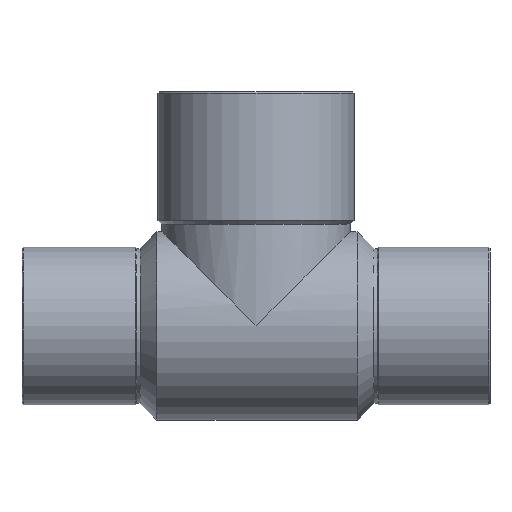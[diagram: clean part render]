
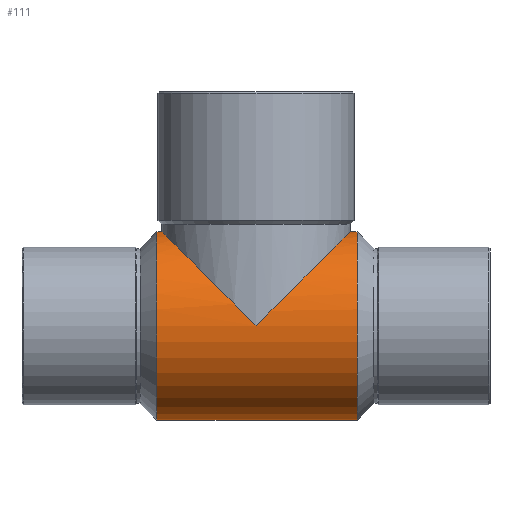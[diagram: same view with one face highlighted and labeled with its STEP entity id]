
A CAD part, top view. The second image highlights one B-rep face of the part: STEP entity #111.
In plain terms, the highlighted cylindrical face has radius 14.5 mm (diameter 29 mm), a partial arc.
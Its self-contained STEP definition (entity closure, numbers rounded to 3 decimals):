
#44=CARTESIAN_POINT('',(0.0,0.,0.0));
#45=DIRECTION('',(1.0,0.,0.0));
#46=DIRECTION('',(0.0,1.0,0.0));
#47=AXIS2_PLACEMENT_3D('',#44,#45,#46);
#48=CYLINDRICAL_SURFACE('',#47,14.5);
#49=CARTESIAN_POINT('',(-15.235,14.5,0.));
#50=VERTEX_POINT('',#49);
#51=CARTESIAN_POINT('',(-14.5,14.5,0.));
#52=VERTEX_POINT('',#51);
#53=CARTESIAN_POINT('',(-15.235,14.5,0.));
#54=DIRECTION('',(1.0,0.0,0.0));
#55=VECTOR('',#54,0.735);
#56=LINE('',#53,#55);
#57=EDGE_CURVE('',#50,#52,#56,.T.);
#58=ORIENTED_EDGE('',*,*,#57,.F.);
#59=CARTESIAN_POINT('',(-15.235,-14.5,0.));
#60=VERTEX_POINT('',#59);
#61=CARTESIAN_POINT('',(-15.235,0.,0.0));
#62=DIRECTION('',(1.0,0.0,0.0));
#63=DIRECTION('',(0.0,1.0,0.0));
#64=AXIS2_PLACEMENT_3D('',#61,#62,#63);
#65=CIRCLE('',#64,14.5);
#66=EDGE_CURVE('',#50,#60,#65,.T.);
#67=ORIENTED_EDGE('',*,*,#66,.T.);
#68=CARTESIAN_POINT('',(15.548,-14.5,0.));
#69=VERTEX_POINT('',#68);
#70=CARTESIAN_POINT('',(15.548,-14.5,0.));
#71=DIRECTION('',(-1.0,0.0,0.0));
#72=VECTOR('',#71,30.782);
#73=LINE('',#70,#72);
#74=EDGE_CURVE('',#69,#60,#73,.T.);
#75=ORIENTED_EDGE('',*,*,#74,.F.);
#76=CARTESIAN_POINT('',(15.548,14.5,0.0));
#77=VERTEX_POINT('',#76);
#78=CARTESIAN_POINT('',(15.548,0.,0.0));
#79=DIRECTION('',(-1.0,0.0,0.0));
#80=DIRECTION('',(0.0,1.0,0.0));
#81=AXIS2_PLACEMENT_3D('',#78,#79,#80);
#82=CIRCLE('',#81,14.5);
#83=EDGE_CURVE('',#69,#77,#82,.T.);
#84=ORIENTED_EDGE('',*,*,#83,.T.);
#85=CARTESIAN_POINT('',(14.5,14.5,0.));
#86=VERTEX_POINT('',#85);
#87=CARTESIAN_POINT('',(14.5,14.5,0.));
#88=DIRECTION('',(1.0,0.0,0.0));
#89=VECTOR('',#88,1.048);
#90=LINE('',#87,#89);
#91=EDGE_CURVE('',#86,#77,#90,.T.);
#92=ORIENTED_EDGE('',*,*,#91,.F.);
#93=CARTESIAN_POINT('',(0.,0.,14.5));
#94=VERTEX_POINT('',#93);
#95=CARTESIAN_POINT('',(0.,0.,0.0));
#96=DIRECTION('',(0.707,-0.707,0.0));
#97=DIRECTION('',(0.707,0.707,0.0));
#98=AXIS2_PLACEMENT_3D('',#95,#96,#97);
#99=ELLIPSE('',#98,20.506,14.5);
#100=EDGE_CURVE('',#86,#94,#99,.T.);
#101=ORIENTED_EDGE('',*,*,#100,.T.);
#102=CARTESIAN_POINT('',(0.,0.,0.0));
#103=DIRECTION('',(-0.707,-0.707,0.0));
#104=DIRECTION('',(0.707,-0.707,0.0));
#105=AXIS2_PLACEMENT_3D('',#102,#103,#104);
#106=ELLIPSE('',#105,20.506,14.5);
#107=EDGE_CURVE('',#94,#52,#106,.T.);
#108=ORIENTED_EDGE('',*,*,#107,.T.);
#109=EDGE_LOOP('',(#58,#67,#75,#84,#92,#101,#108));
#110=FACE_OUTER_BOUND('',#109,.T.);
#111=ADVANCED_FACE('',(#110),#48,.T.);
